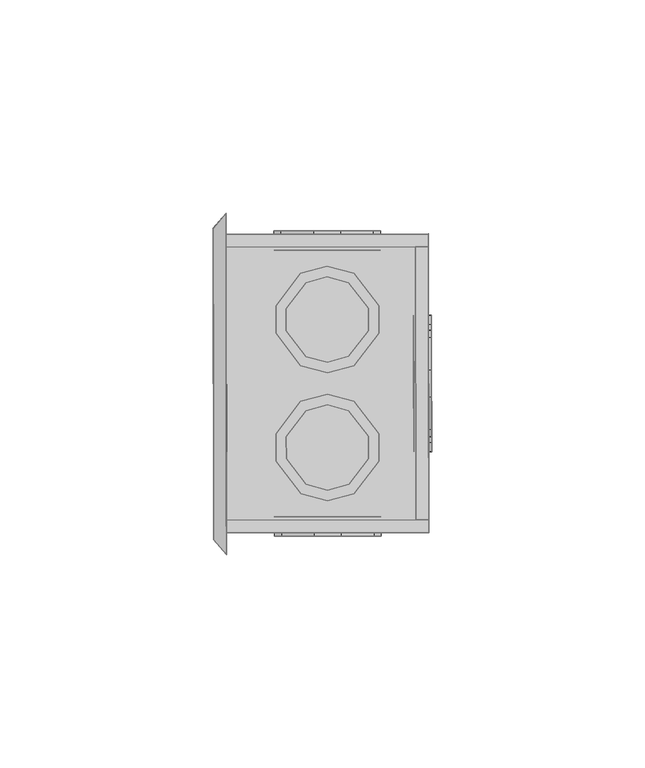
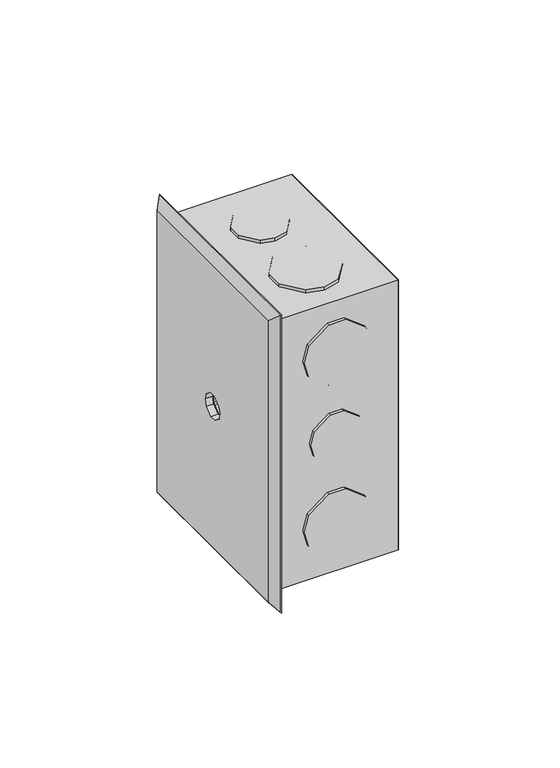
"""IFC4 building model written with IfcOpenShell, lengths in millimetres: proxy geometry,  211147 :  211147."""

import ifcopenshell
import ifcopenshell.guid

model = None  # the IFC model being written
_history = None  # IfcOwnerHistory: only IFC2X3 demands one
_inside = {}  # id of a spatial element -> (the spatial element, [elements in it])
_under = {}  # id of a project, library or spatial element -> (it, [spatial elements below it])
_declared = {}  # id of a project -> (the project, [libraries it declares])
_typed = {}  # id of a type object -> (the type object, [elements of that type])
_made_of = {}  # id of a material, layer set ... -> (it, [elements and type objects made of it])


def new_model(schema):
    """Start an empty IFC model of exactly this schema.

    Asked for "IFC4X3", IfcOpenShell would pick the latest addendum, in which some entities
    have other attributes; the version numbers below select the first issue.
    IFC2X3 requires an IfcOwnerHistory on every rooted entity: one is made here for all.
    """
    global model, _history
    if schema == "IFC4X3":
        model = ifcopenshell.file(schema_version=(4, 3, 0, 0))
    else:
        model = ifcopenshell.file(schema=schema)
    _inside.clear()
    _under.clear()
    _declared.clear()
    _typed.clear()
    _made_of.clear()
    _history = None
    if model.schema == "IFC2X3":
        org = make("IfcOrganization", Name="unknown")
        user = make(
            "IfcPersonAndOrganization",
            ThePerson=make("IfcPerson", FamilyName="unknown"),
            TheOrganization=org,
        )
        app = make(
            "IfcApplication",
            ApplicationDeveloper=org,
            Version="unknown",
            ApplicationFullName="unknown",
            ApplicationIdentifier="unknown",
        )
        _history = make(
            "IfcOwnerHistory",
            OwningUser=user,
            OwningApplication=app,
            ChangeAction="ADDED",
            CreationDate=0,
        )
    return model


def make(cls, **values):
    """One entity of the class cls with the attributes given. An attribute that is None is left unset."""
    return model.create_entity(
        cls, **{name: value for name, value in values.items() if value is not None}
    )


def rooted(cls, **values):
    """An entity with a GlobalId (a new one), such as an element, a storey or a relation."""
    return make(cls, GlobalId=ifcopenshell.guid.new(), OwnerHistory=_history, **values)


def si_unit(unit_type, name, prefix=None):
    """IfcSIUnit, for example si_unit("LENGTHUNIT", "METRE", prefix="MILLI")."""
    return make("IfcSIUnit", UnitType=unit_type, Prefix=prefix, Name=name)


def assignment(units):
    """IfcUnitAssignment: the units of a project."""
    return None if units is None else make("IfcUnitAssignment", Units=units)


def point(xyz):
    """IfcCartesianPoint."""
    return None if xyz is None else make("IfcCartesianPoint", Coordinates=xyz)


def direction(xyz):
    """IfcDirection."""
    return None if xyz is None else make("IfcDirection", DirectionRatios=xyz)


def frame(location, z_axis=None, x_axis=None):
    """IfcAxis2Placement3D, a coordinate frame: its origin and axes. An axis left out is left unset."""
    return make(
        "IfcAxis2Placement3D",
        Location=point(location),
        Axis=direction(z_axis),
        RefDirection=direction(x_axis),
    )


def origin():
    """The frame at (0, 0, 0) with its axes left unset."""
    return frame((0.0, 0.0, 0.0))


def place(relative_to, where):
    """IfcLocalPlacement: puts the frame where relative to a parent placement (None: the world)."""
    return make(
        "IfcLocalPlacement", PlacementRelTo=relative_to, RelativePlacement=where
    )


def context(
    kind, dimensions, precision=None, world=None, true_north=None, identifier=None
):
    """IfcGeometricRepresentationContext, for example the 3D "Model" context."""
    return make(
        "IfcGeometricRepresentationContext",
        ContextIdentifier=identifier,
        ContextType=kind,
        CoordinateSpaceDimension=dimensions,
        Precision=precision,
        WorldCoordinateSystem=world,
        TrueNorth=true_north,
    )


def project(units=None, contexts=None):
    """IfcProject with its units and contexts."""
    return rooted(
        "IfcProject",
        Name="project",
        RepresentationContexts=contexts,
        UnitsInContext=assignment(units),
    )


def spatial(cls, under=None, at=None, **own):
    """A site, building, storey or space (cls), placed at a placement, below another one or the project."""
    s = rooted(cls, ObjectPlacement=at, **own)
    if under is not None:
        _under.setdefault(under.id(), (under, []))[1].append(s)
    return s


def point_list(points):
    """IfcCartesianPointList2D or 3D."""
    cls = (
        "IfcCartesianPointList2D" if len(points[0]) == 2 else "IfcCartesianPointList3D"
    )
    return make(cls, CoordList=points)


def triangles(points, corners, closed=None, point_numbers=None):
    """IfcTriangulatedFaceSet: each triangle names its three corners, points numbered from 1."""
    return make(
        "IfcTriangulatedFaceSet",
        Coordinates=point_list(points),
        Closed=closed,
        CoordIndex=corners,
        PnIndex=point_numbers,
    )


def shape(context_of_items, identifier, shape_type, items):
    """IfcShapeRepresentation: the items that make up one representation, for example the "Body"."""
    return make(
        "IfcShapeRepresentation",
        ContextOfItems=context_of_items,
        RepresentationIdentifier=identifier,
        RepresentationType=shape_type,
        Items=items,
    )


def source(mapping_origin, context_of_items, identifier, shape_type, items):
    """IfcRepresentationMap: a shape defined once, which mapped items show again and again."""
    return make(
        "IfcRepresentationMap",
        MappingOrigin=mapping_origin,
        MappedRepresentation=shape(context_of_items, identifier, shape_type, items),
    )


def transform(
    local_origin,
    x_axis=None,
    y_axis=None,
    z_axis=None,
    scale=None,
    scale2=None,
    scale3=None,
    uniform=True,
):
    """IfcCartesianTransformationOperator3D, or its non-uniform kind. x_axis, y_axis, z_axis: its Axis1, 2, 3."""
    if uniform:
        return make(
            "IfcCartesianTransformationOperator3D",
            Axis1=direction(x_axis),
            Axis2=direction(y_axis),
            LocalOrigin=point(local_origin),
            Scale=scale,
            Axis3=direction(z_axis),
        )
    return make(
        "IfcCartesianTransformationOperator3DnonUniform",
        Axis1=direction(x_axis),
        Axis2=direction(y_axis),
        LocalOrigin=point(local_origin),
        Scale=scale,
        Axis3=direction(z_axis),
        Scale2=scale2,
        Scale3=scale3,
    )


def mapped(mapping_source, mapping_target):
    """IfcMappedItem: shows the shape of a source again, moved by a transform."""
    return make(
        "IfcMappedItem", MappingSource=mapping_source, MappingTarget=mapping_target
    )


def made_of(thing, what):
    """Note that an element or type object is made of a material, layer set ...; save() writes the relation."""
    if what is not None:
        _made_of.setdefault(what.id(), (what, []))[1].append(thing)
    return thing


def element(
    cls,
    number,
    at=None,
    inside=None,
    cuts=None,
    type_object=None,
    material=None,
    context=None,
    identifier="Body",
    shape_type=None,
    held_by="IfcProductDefinitionShape",
    body=None,
    shapes=None,
    **own,
):
    """One element of the class cls, such as IfcWall. Its Tag is "e" and its number.

    at: its placement. inside: the storey or other place that contains it. cuts: it is an
    opening in that element (IfcRelVoidsElement). A single representation is given by context,
    identifier, shape_type and body (its items); several are given by shapes. held_by: the class
    of the entity that holds the representations. save() writes the other relations.
    """
    e = rooted(cls, Tag="e%d" % number, ObjectPlacement=at, **own)
    if body is not None:
        shapes = [shape(context, identifier, shape_type, body)]
    if shapes is not None:
        e.Representation = make(held_by, Representations=shapes)
    if inside is not None:
        _inside.setdefault(inside.id(), (inside, []))[1].append(e)
    if cuts is not None:
        rooted(
            "IfcRelVoidsElement", RelatingBuildingElement=cuts, RelatedOpeningElement=e
        )
    if type_object is not None:
        _typed.setdefault(type_object.id(), (type_object, []))[1].append(e)
    return made_of(e, material)


def aggregate(whole, parts):
    """IfcRelAggregates: a whole, such as a stair, and the parts it consists of."""
    return rooted("IfcRelAggregates", RelatingObject=whole, RelatedObjects=parts)


def save(model, path):
    """Write the relations noted so far, then the file.

    IfcRelAggregates (storeys below a building ...), IfcRelContainedInSpatialStructure (elements
    in a storey), IfcRelDefinesByType, IfcRelAssociatesMaterial and IfcRelDeclares: one each for
    every whole, place, type object, material and project.
    """
    for whole, parts in _under.values():
        aggregate(whole, parts)
    for where, things in _inside.values():
        rooted(
            "IfcRelContainedInSpatialStructure",
            RelatedElements=things,
            RelatingStructure=where,
        )
    for kind, things in _typed.values():
        rooted("IfcRelDefinesByType", RelatedObjects=things, RelatingType=kind)
    for what, things in _made_of.values():
        rooted("IfcRelAssociatesMaterial", RelatedObjects=things, RelatingMaterial=what)
    for by, libraries in _declared.values():
        rooted("IfcRelDeclares", RelatingContext=by, RelatedDefinitions=libraries)
    model.write(path)


def generic_models_30c3853f(model_context):
    return source(origin(), model_context, "Body", "Tessellation", [
        triangles([(3404.9549561, 9338.6968369, 1749.1000683), (3399.9540985, 9340.029895, 1749.1000683), (3409.6290894, 9327.4539185, 1749.1000683), (3409.6229851, 9332.630928, 1749.1000683), (3404.9779198, 9321.3758011, 1749.1000683), (3399.979969, 9320.029953, 1749.1000683), (3394.954985, 9338.6840469, 1749.1000683), (3390.3041061, 9332.6059296, 1749.1000683), (3390.3110825, 9327.42892, 1749.1000683), (3394.9779488, 9321.3630112, 1749.1000683), (3406.1920898, 9349.2130554, 1749.1000683), (3406.1630219, 9370.8628967, 1749.1000683), (3393.6919807, 9349.1967773, 1749.1000683), (3411.9969681, 9363.2808014, 1749.1000683), (3412.0059792, 9356.8108475, 1749.1000683), (3399.9110779, 9372.5302368, 1749.1000683), (3393.6629128, 9370.8472, 1749.1000683), (3387.8490234, 9363.2488266, 1749.1000683), (3399.9439247, 9347.5300186, 1749.1000683), (3387.8580345, 9356.7788727, 1749.1000683), (3399.979969, 9320.029953, 1744.8000401), (3390.3041061, 9332.6059296, 1744.8000401), (3399.9540985, 9340.029895, 1744.8000401), (3390.3110825, 9327.42892, 1744.8000401), (3394.9779488, 9321.3630112, 1744.8000401), (3394.954985, 9338.6840469, 1744.8000401), (3404.9549561, 9338.6968369, 1744.8000401), (3409.6229851, 9332.630928, 1744.8000401), (3409.6290894, 9327.4539185, 1744.8000401), (3404.9779198, 9321.3758011, 1744.8000401), (3406.1630219, 9370.8628967, 1744.8000401), (3393.6919807, 9349.1967773, 1744.8000401), (3387.8490234, 9363.2488266, 1744.8000401), (3387.8580345, 9356.7788727, 1744.8000401), (3399.9439247, 9347.5300186, 1744.8000401), (3406.1920898, 9349.2130554, 1744.8000401), (3393.6629128, 9370.8472, 1744.8000401), (3411.9969681, 9363.2808014, 1744.8000401), (3412.0059792, 9356.8108475, 1744.8000401), (3399.9110779, 9372.5302368, 1744.8000401), (3406.2031357, 9340.8629837, 1855.1999874), (3399.950029, 9342.5297424, 1855.1999874), (3412.0370819, 9333.2808884, 1855.1999874), (3406.231041, 9319.2131424, 1855.1999874), (3412.0449303, 9326.8109344, 1855.1999874), (3393.7030266, 9340.847287, 1855.1999874), (3387.8879745, 9333.2489136, 1855.1999874), (3393.7309319, 9319.1968643, 1855.1999874), (3399.9828758, 9317.5301056, 1855.1999874), (3387.8969856, 9326.7789597, 1855.1999874), (3409.5901382, 9357.4538315, 1855.1999874), (3404.9160049, 9368.6967499, 1855.1999874), (3394.9160339, 9368.68396, 1855.1999874), (3409.5828712, 9362.6308411, 1855.1999874), (3404.9389687, 9351.3757141, 1855.1999874), (3399.9410179, 9350.029866, 1855.1999874), (3399.9139847, 9370.029808, 1855.1999874), (3390.2648643, 9362.6058426, 1855.1999874), (3390.2721313, 9357.428833, 1855.1999874), (3394.9389977, 9351.3629242, 1855.1999874), (3387.8879745, 9333.2489136, 1850.9999531), (3393.7030266, 9340.847287, 1850.9999531), (3393.7309319, 9319.1968643, 1850.9999531), (3387.8969856, 9326.7789597, 1850.9999531), (3399.9828758, 9317.5301056, 1850.9999531), (3406.231041, 9319.2131424, 1850.9999531), (3399.950029, 9342.5297424, 1850.9999531), (3406.2031357, 9340.8629837, 1850.9999531), (3412.0370819, 9333.2808884, 1850.9999531), (3412.0449303, 9326.8109344, 1850.9999531), (3409.5901382, 9357.4538315, 1850.9999531), (3390.2721313, 9357.428833, 1850.9999531), (3390.2648643, 9362.6058426, 1850.9999531), (3394.9389977, 9351.3629242, 1850.9999531), (3399.9410179, 9350.029866, 1850.9999531), (3394.9160339, 9368.68396, 1850.9999531), (3404.9160049, 9368.6967499, 1850.9999531), (3404.9389687, 9351.3757141, 1850.9999531), (3409.5828712, 9362.6308411, 1850.9999531), (3399.9139847, 9370.029808, 1850.9999531), (3403.135881, 9380.8337997, 1846.0739456), (3410.7261154, 9380.8442642, 1840.2500278), (3396.6650551, 9380.8262421, 1846.0739456), (3403.135881, 9380.8337997, 1821.926001), (3389.0751114, 9380.8157776, 1840.2500278), (3387.3999229, 9380.8140335, 1833.9999733), (3412.4001411, 9380.8460083, 1833.9999733), (3410.7261154, 9380.8442642, 1827.7500641), (3389.0751114, 9380.8157776, 1827.7500641), (3396.6650551, 9380.8262421, 1821.926001), (3389.900061, 9380.8169403, 1800.0000137), (3402.4879555, 9380.8332184, 1809.6590172), (3409.9000031, 9380.8431015, 1800.0000137), (3397.3121086, 9380.8268234, 1809.6590172), (3391.2400955, 9380.8192657, 1804.9999992), (3408.5611313, 9380.8407761, 1804.9999992), (3408.5611313, 9380.8407761, 1795.0000282), (3402.4879555, 9380.8332184, 1790.3410103), (3391.2400955, 9380.8192657, 1795.0000282), (3397.3121086, 9380.8268234, 1790.3410103), (3389.0751114, 9380.8157776, 1772.2499634), (3403.135881, 9380.8337997, 1778.0740265), (3412.4001411, 9380.8460083, 1766.0000542), (3396.6650551, 9380.8262421, 1778.0740265), (3387.3999229, 9380.8140335, 1766.0000542), (3389.0751114, 9380.8157776, 1759.7499996), (3410.7261154, 9380.8442642, 1772.2499634), (3410.7261154, 9380.8442642, 1759.7499996), (3396.6650551, 9380.8262421, 1753.9259365), (3403.135881, 9380.8337997, 1753.9259365), (3410.731929, 9376.2439636, 1827.7500641), (3412.4059547, 9376.2462891, 1833.9999733), (3403.1419853, 9376.2340805, 1821.926001), (3389.080925, 9376.2160583, 1827.7500641), (3396.6708687, 9376.2259415, 1821.926001), (3387.4060272, 9376.2137329, 1833.9999733), (3396.6708687, 9376.2259415, 1846.0739456), (3410.731929, 9376.2439636, 1840.2500278), (3403.1419853, 9376.2340805, 1846.0739456), (3389.080925, 9376.2160583, 1840.2500278), (3408.5669449, 9376.2410568, 1795.0000282), (3409.9061073, 9376.2428009, 1800.0000137), (3391.2459091, 9376.2189651, 1795.0000282), (3402.4940598, 9376.2329178, 1790.3410103), (3397.3179222, 9376.2271042, 1790.3410103), (3389.9058746, 9376.2172211, 1800.0000137), (3402.4940598, 9376.2329178, 1809.6590172), (3397.3179222, 9376.2271042, 1809.6590172), (3391.2459091, 9376.2189651, 1804.9999992), (3408.5669449, 9376.2410568, 1804.9999992), (3410.731929, 9376.2439636, 1759.7499996), (3412.4059547, 9376.2462891, 1766.0000542), (3389.080925, 9376.2160583, 1759.7499996), (3396.6708687, 9376.2259415, 1753.9259365), (3403.1419853, 9376.2340805, 1753.9259365), (3410.731929, 9376.2439636, 1772.2499634), (3389.080925, 9376.2160583, 1772.2499634), (3403.1419853, 9376.2340805, 1778.0740265), (3387.4060272, 9376.2137329, 1766.0000542), (3396.6708687, 9376.2259415, 1778.0740265), (3403.2288986, 9309.2341003, 1821.926001), (3410.819133, 9309.2439835, 1827.7500641), (3396.7589447, 9309.2259613, 1821.926001), (3403.2288986, 9309.2341003, 1846.0739456), (3389.169001, 9309.2160782, 1827.7500641), (3387.4941032, 9309.2137527, 1833.9999733), (3412.4940308, 9309.2457275, 1833.9999733), (3410.819133, 9309.2439835, 1840.2500278), (3389.169001, 9309.2160782, 1840.2500278), (3396.7589447, 9309.2259613, 1846.0739456), (3389.9939507, 9309.2172409, 1800.0000137), (3402.5821358, 9309.2329376, 1790.3410103), (3402.5821358, 9309.2329376, 1809.6590172), (3391.3339851, 9309.218985, 1795.0000282), (3397.4059982, 9309.227124, 1790.3410103), (3408.6538582, 9309.2410767, 1795.0000282), (3409.9938927, 9309.2428207, 1800.0000137), (3408.6538582, 9309.2410767, 1804.9999992), (3397.4059982, 9309.227124, 1809.6590172), (3391.3339851, 9309.218985, 1804.9999992), (3403.2288986, 9309.2341003, 1753.9259365), (3410.819133, 9309.2439835, 1759.7499996), (3396.7589447, 9309.2259613, 1753.9259365), (3387.4941032, 9309.2137527, 1766.0000542), (3389.169001, 9309.2160782, 1759.7499996), (3389.169001, 9309.2160782, 1772.2499634), (3410.819133, 9309.2439835, 1772.2499634), (3403.2288986, 9309.2341003, 1778.0740265), (3396.7589447, 9309.2259613, 1778.0740265), (3412.4940308, 9309.2457275, 1766.0000542), (3410.8130287, 9313.8442841, 1840.2500278), (3412.4879265, 9313.8460281, 1833.9999733), (3403.223085, 9313.8338196, 1846.0739456), (3389.1628967, 9313.8157974, 1840.2500278), (3396.7531311, 9313.8262619, 1846.0739456), (3387.487999, 9313.8140533, 1833.9999733), (3396.7531311, 9313.8262619, 1821.926001), (3410.8130287, 9313.8442841, 1827.7500641), (3403.223085, 9313.8338196, 1821.926001), (3389.1628967, 9313.8157974, 1827.7500641), (3402.5760315, 9313.8332382, 1809.6590172), (3408.6480446, 9313.8407959, 1804.9999992), (3402.5760315, 9313.8332382, 1790.3410103), (3397.399894, 9313.8268433, 1809.6590172), (3389.9881371, 9313.8169601, 1800.0000137), (3391.3278809, 9313.8192856, 1804.9999992), (3409.9880791, 9313.8431213, 1800.0000137), (3391.3278809, 9313.8192856, 1795.0000282), (3397.399894, 9313.8268433, 1790.3410103), (3408.6480446, 9313.8407959, 1795.0000282), (3403.223085, 9313.8338196, 1778.0740265), (3410.8130287, 9313.8442841, 1772.2499634), (3396.7531311, 9313.8262619, 1753.9259365), (3389.1628967, 9313.8157974, 1772.2499634), (3396.7531311, 9313.8262619, 1778.0740265), (3410.8130287, 9313.8442841, 1759.7499996), (3412.4879265, 9313.8460281, 1766.0000542), (3403.223085, 9313.8338196, 1753.9259365), (3387.487999, 9313.8140533, 1766.0000542), (3389.1628967, 9313.8157974, 1759.7499996), (3424.3831306, 9355.8870667, 1827.7500641), (3424.3810959, 9357.5619644, 1833.9999733), (3424.3930138, 9348.2968323, 1821.926001), (3424.4110359, 9334.2372253, 1827.7500641), (3424.4008621, 9341.8268784, 1821.926001), (3424.3831306, 9355.8870667, 1840.2500278), (3424.3930138, 9348.2968323, 1846.0739456), (3424.4008621, 9341.8268784, 1846.0739456), (3424.4130707, 9332.5617462, 1833.9999733), (3424.4110359, 9334.2372253, 1840.2500278), (3424.3790611, 9358.918277, 1792.000066), (3424.3758636, 9361.0617508, 1800.0000137), (3424.3921417, 9349.2031723, 1784.5449978), (3424.4151054, 9331.206015, 1792.000066), (3424.4020248, 9340.9211197, 1784.5449978), (3424.3790611, 9358.918277, 1807.9999615), (3424.3921417, 9349.2031723, 1815.4550297), (3424.4020248, 9340.9211197, 1815.4550297), (3424.4180122, 9329.0619598, 1800.0000137), (3424.4151054, 9331.206015, 1807.9999615), (3424.3831306, 9355.8870667, 1759.7499996), (3424.3810959, 9357.5619644, 1766.0000542), (3424.4008621, 9341.8268784, 1753.9259365), (3424.3930138, 9348.2968323, 1753.9259365), (3424.4110359, 9334.2372253, 1759.7499996), (3424.4130707, 9332.5617462, 1766.0000542), (3424.4008621, 9341.8268784, 1778.0740265), (3424.3930138, 9348.2968323, 1778.0740265), (3424.4110359, 9334.2372253, 1772.2499634), (3424.3831306, 9355.8870667, 1772.2499634), (3420.1929794, 9348.2921814, 1846.0739456), (3420.1830963, 9355.8818344, 1840.2500278), (3420.2011185, 9341.8210648, 1846.0739456), (3420.2110016, 9334.2308304, 1827.7500641), (3420.2110016, 9334.2308304, 1840.2500278), (3420.2130363, 9332.5559326, 1833.9999733), (3420.1810616, 9357.5561508, 1833.9999733), (3420.1830963, 9355.8818344, 1827.7500641), (3420.1929794, 9348.2921814, 1821.926001), (3420.2011185, 9341.8210648, 1821.926001), (3420.1921074, 9349.1979401, 1815.4550297), (3420.1790268, 9358.9130447, 1807.9999615), (3420.2179779, 9329.0561462, 1800.0000137), (3420.2019905, 9340.9147247, 1815.4550297), (3420.2150711, 9331.2002014, 1807.9999615), (3420.17612, 9361.0559372, 1800.0000137), (3420.1790268, 9358.9130447, 1792.000066), (3420.1921074, 9349.1979401, 1784.5449978), (3420.2150711, 9331.2002014, 1792.000066), (3420.2019905, 9340.9147247, 1784.5449978), (3420.1810616, 9357.5561508, 1766.0000542), (3420.2011185, 9341.8210648, 1778.0740265), (3420.1929794, 9348.2921814, 1778.0740265), (3420.2130363, 9332.5559326, 1766.0000542), (3420.2110016, 9334.2308304, 1772.2499634), (3420.2011185, 9341.8210648, 1753.9259365), (3420.1830963, 9355.8818344, 1772.2499634), (3420.1830963, 9355.8818344, 1759.7499996), (3420.1929794, 9348.2921814, 1753.9259365), (3420.2110016, 9334.2308304, 1759.7499996), (3424.3848747, 9354.0610153, 1788.2729679), (3420.1851311, 9354.0552017, 1788.2729679), (3420.2089668, 9336.0580444, 1788.2729679), (3424.4171402, 9330.1339874, 1795.9999672), (3420.2171059, 9330.1281738, 1795.9999672), (3424.4090012, 9336.0632767, 1788.2729679), (3420.197049, 9345.055751, 1784.5449978), (3420.1778641, 9359.9397263, 1795.8319542), (3424.3778984, 9359.9897232, 1795.9999672), (3424.3970833, 9345.062146, 1784.5449978), (3424.4090012, 9336.0632767, 1811.7270596), (3420.2089668, 9336.0580444, 1811.7270596), (3420.1851311, 9354.0552017, 1811.7270596), (3424.3778984, 9359.9897232, 1804.0000603), (3420.1778641, 9359.9850723, 1804.0000603), (3424.3848747, 9354.0610153, 1811.7270596), (3420.197049, 9345.055751, 1815.4550297), (3420.2159431, 9330.1729385, 1804.1679279), (3424.4171402, 9330.1339874, 1804.0000603), (3424.3970833, 9345.062146, 1815.4550297), (3423.6549774, 9377.0607742, 1748.7499443), (3423.6549774, 9377.0607742, 1851.2499378), (3423.7389839, 9313.0611923, 1851.2499378), (3423.7389839, 9313.0611923, 1748.7499443), (3420.7388763, 9313.0571228, 1748.7499443), (3420.7388763, 9313.0571228, 1851.2499378), (3420.6548698, 9377.0572861, 1851.2499378), (3420.6548698, 9377.0572861, 1748.7499443), (3423.6509079, 9380.0611725, 1854.2500454), (3423.6509079, 9380.0611725, 1745.7499821), (3423.7430534, 9310.0607941, 1854.2500454), (3423.7430534, 9310.0607941, 1745.7499821), (3376.2430458, 9309.9991699, 1854.2500454), (3376.2389763, 9312.9989868, 1851.2499378), (3376.2389763, 9312.9989868, 1748.7499443), (3376.1549698, 9376.9991501, 1851.2499378), (3376.2430458, 9309.9991699, 1745.7499821), (3376.1549698, 9376.9991501, 1748.7499443), (3376.1509003, 9379.998967, 1854.2500454), (3376.1509003, 9379.998967, 1745.7499821), (3373.244973, 9308.3690369, 1856.5000534), (3373.1990456, 9343.5750275, 1804.8299515), (3373.2031151, 9340.5391663, 1802.5000065), (3373.1961388, 9346.1632416, 1804.8299515), (3373.2039871, 9339.8688583, 1800.0000137), (3373.244973, 9308.3690369, 1743.4999741), (3373.2031151, 9340.5391663, 1797.500021), (3373.1990456, 9343.5750275, 1795.1699306), (3373.1961388, 9346.1632416, 1795.1699306), (3373.1499207, 9381.3692322, 1856.5000534), (3373.1920692, 9349.1991028, 1802.5000065), (3373.1909065, 9349.8688293, 1800.0000137), (3373.1920692, 9349.1991028, 1797.500021), (3373.1499207, 9381.3692322, 1743.4999741), (3376.2488594, 9304.908783, 1740.0359413), (3376.1988625, 9343.579097, 1795.1699306), (3376.202932, 9340.5432358, 1797.500021), (3376.1959557, 9346.1667297, 1795.1699306), (3376.2040947, 9339.8729279, 1800.0000137), (3376.2488594, 9304.908783, 1860.0360294), (3376.202932, 9340.5432358, 1802.5000065), (3376.1988625, 9343.579097, 1804.8299515), (3376.1959557, 9346.1667297, 1804.8299515), (3376.1450867, 9384.9091324, 1740.0359413), (3376.1918861, 9349.2031723, 1797.500021), (3376.1910141, 9349.8728989, 1800.0000137), (3376.1918861, 9349.2031723, 1802.5000065), (3376.1450867, 9384.9091324, 1860.0360294)], [[3, 1, 2], [1, 3, 4], [6, 5, 3], [3, 2, 7], [7, 8, 9], [6, 9, 10], [7, 9, 6], [7, 6, 3], [11, 12, 13], [14, 11, 15], [11, 14, 12], [12, 16, 17], [13, 12, 18], [13, 19, 11], [13, 18, 20], [18, 12, 17], [21, 22, 23], [24, 21, 25], [21, 24, 22], [22, 26, 23], [23, 27, 28], [29, 30, 21], [29, 23, 28], [23, 29, 21], [31, 32, 33], [33, 32, 34], [36, 35, 32], [33, 37, 31], [31, 36, 32], [36, 38, 39], [31, 38, 36], [31, 37, 40], [5, 21, 30], [3, 30, 29], [21, 5, 6], [5, 30, 3], [29, 4, 3], [1, 28, 27], [2, 27, 23], [28, 1, 4], [1, 27, 2], [28, 4, 29], [7, 23, 26], [8, 26, 22], [23, 7, 2], [7, 26, 8], [22, 9, 8], [10, 24, 25], [6, 25, 21], [24, 10, 9], [10, 25, 6], [24, 9, 22], [19, 35, 36], [11, 36, 39], [11, 19, 36], [15, 11, 39], [39, 38, 15], [14, 38, 31], [12, 31, 40], [12, 14, 31], [16, 12, 40], [38, 14, 15], [37, 33, 17], [40, 37, 16], [37, 17, 16], [17, 33, 18], [33, 34, 18], [32, 35, 13], [34, 32, 20], [32, 13, 20], [13, 35, 19], [34, 20, 18], [43, 41, 42], [43, 44, 45], [44, 43, 42], [42, 46, 44], [46, 47, 48], [46, 48, 49], [48, 47, 50], [46, 49, 44], [51, 52, 53], [52, 51, 54], [56, 55, 51], [53, 52, 57], [51, 58, 59], [60, 56, 51], [51, 59, 60], [58, 51, 53], [63, 61, 62], [61, 63, 64], [66, 65, 63], [66, 63, 62], [67, 68, 69], [66, 69, 70], [67, 69, 66], [67, 66, 62], [71, 72, 73], [74, 71, 75], [72, 71, 74], [73, 76, 77], [77, 71, 73], [71, 78, 75], [71, 77, 79], [76, 80, 77], [44, 65, 66], [45, 66, 70], [65, 44, 49], [44, 66, 45], [70, 43, 45], [41, 69, 68], [42, 68, 67], [69, 41, 43], [41, 68, 42], [69, 43, 70], [46, 67, 62], [47, 62, 61], [67, 46, 42], [46, 62, 47], [61, 50, 47], [48, 64, 63], [49, 63, 65], [64, 48, 50], [48, 63, 49], [64, 50, 61], [78, 71, 51], [75, 78, 55], [75, 55, 56], [55, 78, 51], [71, 54, 51], [77, 80, 57], [79, 77, 52], [79, 52, 54], [52, 77, 57], [79, 54, 71], [53, 80, 76], [58, 76, 73], [53, 57, 80], [58, 53, 76], [73, 59, 58], [60, 72, 74], [56, 74, 75], [60, 59, 72], [56, 60, 74], [72, 59, 73], [83, 81, 82], [83, 84, 85], [84, 86, 85], [84, 83, 82], [87, 88, 84], [89, 84, 90], [84, 89, 86], [84, 82, 87], [91, 92, 93], [94, 91, 95], [91, 94, 92], [92, 96, 93], [93, 97, 98], [99, 98, 100], [98, 99, 91], [93, 98, 91], [101, 102, 103], [102, 101, 104], [106, 105, 101], [103, 102, 107], [103, 108, 106], [108, 109, 106], [109, 108, 110], [103, 106, 101], [113, 111, 112], [113, 114, 115], [116, 114, 113], [113, 112, 117], [118, 119, 117], [120, 116, 113], [113, 117, 120], [112, 118, 117], [123, 121, 122], [124, 123, 125], [123, 124, 121], [122, 126, 123], [122, 127, 126], [126, 128, 129], [127, 128, 126], [127, 122, 130], [133, 131, 132], [131, 134, 135], [133, 134, 131], [133, 132, 136], [138, 137, 133], [137, 139, 133], [137, 138, 140], [136, 138, 133], [118, 87, 82], [119, 82, 81], [87, 118, 112], [119, 118, 82], [81, 117, 119], [120, 83, 85], [116, 85, 86], [83, 120, 117], [120, 85, 116], [83, 117, 81], [114, 86, 89], [115, 89, 90], [86, 114, 116], [114, 89, 115], [90, 113, 115], [111, 84, 88], [112, 88, 87], [84, 111, 113], [112, 111, 88], [90, 84, 113], [96, 92, 130], [93, 96, 122], [96, 130, 122], [130, 92, 127], [127, 92, 94], [95, 91, 129], [94, 95, 128], [95, 129, 128], [129, 91, 126], [94, 128, 127], [126, 91, 99], [123, 99, 100], [99, 123, 126], [100, 125, 123], [100, 98, 125], [124, 98, 97], [121, 97, 93], [97, 121, 124], [93, 122, 121], [98, 124, 125], [107, 102, 136], [132, 103, 107], [107, 136, 132], [136, 102, 138], [138, 102, 104], [137, 101, 105], [104, 101, 140], [101, 137, 140], [137, 105, 139], [104, 140, 138], [139, 105, 106], [133, 106, 109], [133, 139, 106], [109, 134, 133], [109, 110, 134], [135, 110, 108], [131, 108, 103], [108, 131, 135], [132, 131, 103], [110, 135, 134], [143, 141, 142], [143, 144, 145], [144, 146, 145], [144, 143, 142], [147, 148, 144], [149, 144, 150], [144, 149, 146], [144, 142, 147], [151, 152, 153], [152, 154, 155], [151, 154, 152], [152, 156, 157], [152, 158, 153], [151, 159, 160], [151, 153, 159], [152, 157, 158], [163, 161, 162], [163, 164, 165], [166, 164, 163], [163, 162, 167], [168, 163, 167], [166, 168, 169], [168, 166, 163], [167, 162, 170], [173, 171, 172], [173, 174, 175], [176, 174, 173], [173, 172, 177], [178, 179, 177], [180, 176, 173], [173, 177, 180], [172, 178, 177], [181, 182, 183], [184, 185, 186], [181, 183, 184], [183, 182, 187], [183, 185, 184], [183, 188, 185], [188, 183, 189], [183, 187, 190], [191, 192, 193], [191, 194, 195], [193, 194, 191], [196, 192, 197], [196, 198, 193], [199, 193, 200], [193, 199, 194], [193, 192, 196], [174, 146, 149], [175, 149, 150], [146, 174, 176], [175, 174, 149], [150, 173, 175], [171, 144, 148], [172, 148, 147], [144, 171, 173], [171, 148, 172], [144, 173, 150], [178, 147, 142], [179, 142, 141], [147, 178, 172], [178, 142, 179], [141, 177, 179], [180, 143, 145], [176, 145, 146], [143, 180, 177], [176, 180, 145], [141, 143, 177], [185, 151, 160], [186, 160, 159], [186, 185, 160], [184, 186, 159], [184, 159, 153], [181, 153, 158], [182, 158, 157], [182, 181, 158], [187, 182, 157], [153, 181, 184], [190, 156, 152], [187, 157, 156], [156, 190, 187], [190, 152, 183], [152, 155, 183], [188, 154, 151], [189, 155, 154], [154, 188, 189], [188, 151, 185], [155, 189, 183], [199, 164, 166], [194, 166, 169], [166, 194, 199], [195, 194, 169], [195, 169, 168], [191, 168, 167], [192, 167, 170], [192, 191, 167], [170, 197, 192], [168, 191, 195], [196, 162, 161], [170, 162, 197], [162, 196, 197], [196, 161, 198], [161, 163, 198], [165, 164, 200], [193, 163, 165], [165, 200, 193], [200, 164, 199], [163, 193, 198], [203, 201, 202], [203, 204, 205], [204, 203, 202], [202, 206, 204], [206, 207, 208], [209, 208, 210], [206, 208, 209], [206, 209, 204], [213, 211, 212], [213, 214, 215], [214, 213, 212], [212, 216, 214], [216, 217, 218], [219, 218, 220], [218, 219, 214], [218, 214, 216], [223, 221, 222], [221, 223, 224], [226, 225, 223], [223, 222, 227], [227, 222, 228], [226, 227, 229], [227, 226, 223], [228, 222, 230], [233, 231, 232], [233, 234, 235], [234, 236, 235], [237, 233, 232], [237, 238, 234], [234, 239, 240], [238, 239, 234], [237, 234, 233], [243, 241, 242], [244, 243, 245], [243, 244, 241], [242, 246, 243], [246, 247, 248], [249, 248, 250], [248, 249, 243], [248, 243, 246], [251, 252, 253], [252, 254, 255], [256, 254, 252], [253, 257, 251], [251, 258, 259], [256, 260, 254], [256, 251, 259], [256, 252, 251], [204, 236, 234], [205, 234, 240], [236, 204, 209], [205, 204, 234], [240, 203, 205], [201, 239, 238], [202, 238, 237], [239, 201, 203], [201, 238, 202], [239, 203, 240], [206, 237, 232], [207, 232, 231], [237, 206, 202], [207, 206, 232], [231, 208, 207], [210, 233, 235], [209, 235, 236], [233, 210, 208], [210, 235, 209], [233, 208, 231], [261, 248, 262], [262, 247, 211], [215, 263, 250], [243, 264, 219], [265, 214, 264], [266, 249, 263], [265, 249, 214], [264, 243, 265], [213, 267, 248], [249, 266, 214], [215, 266, 263], [211, 268, 269], [248, 261, 213], [262, 211, 261], [246, 269, 268], [268, 211, 247], [270, 215, 250], [246, 212, 269], [270, 250, 267], [267, 213, 270], [271, 244, 272], [272, 245, 220], [217, 273, 241], [246, 274, 212], [275, 216, 274], [276, 242, 273], [275, 242, 216], [274, 246, 275], [218, 277, 244], [242, 276, 216], [217, 276, 273], [220, 278, 279], [244, 271, 218], [272, 220, 271], [243, 279, 278], [278, 220, 245], [280, 217, 241], [243, 219, 279], [280, 241, 277], [277, 218, 280], [260, 256, 223], [254, 260, 225], [254, 225, 226], [223, 225, 260], [256, 224, 223], [258, 251, 222], [259, 258, 221], [259, 221, 224], [221, 258, 222], [259, 224, 256], [230, 251, 257], [228, 257, 253], [230, 222, 251], [228, 230, 257], [253, 227, 228], [229, 252, 255], [226, 255, 254], [229, 227, 252], [226, 229, 255], [252, 227, 253], [281, 282, 283], [283, 284, 281], [285, 286, 287], [287, 288, 285], [283, 282, 287], [287, 286, 283], [284, 283, 286], [286, 285, 284], [281, 284, 285], [285, 288, 281], [282, 281, 288], [288, 287, 282], [289, 282, 281], [283, 282, 289], [290, 281, 284], [289, 281, 290], [284, 283, 291], [291, 283, 289], [290, 284, 292], [292, 284, 291], [293, 294, 295], [296, 294, 293], [297, 295, 298], [293, 295, 297], [298, 296, 299], [299, 296, 293], [297, 298, 300], [300, 298, 299], [291, 289, 299], [299, 293, 291], [292, 291, 293], [293, 297, 292], [290, 292, 297], [297, 300, 290], [289, 290, 300], [300, 299, 289], [284, 281, 298], [298, 295, 284], [283, 284, 295], [295, 294, 283], [296, 282, 283], [283, 294, 296], [281, 282, 296], [296, 298, 281], [301, 302, 303], [304, 302, 301], [301, 303, 305], [306, 305, 307], [301, 305, 306], [307, 308, 306], [306, 308, 309], [311, 304, 310], [310, 304, 301], [312, 311, 310], [314, 309, 313], [312, 314, 313], [314, 312, 310], [309, 314, 306], [315, 316, 317], [318, 316, 315], [315, 317, 319], [320, 319, 321], [315, 319, 320], [321, 322, 320], [320, 322, 323], [325, 318, 324], [324, 318, 315], [326, 325, 324], [328, 323, 327], [326, 328, 327], [328, 326, 324], [323, 328, 320], [310, 301, 320], [328, 310, 320], [324, 310, 328], [324, 314, 310], [315, 314, 324], [315, 306, 314], [301, 306, 315], [320, 301, 315], [325, 326, 313], [309, 318, 325], [312, 313, 326], [309, 325, 313], [318, 309, 308], [307, 317, 316], [319, 317, 305], [316, 308, 307], [305, 317, 307], [318, 308, 316], [303, 321, 319], [322, 321, 302], [319, 305, 303], [302, 321, 303], [302, 304, 322], [327, 323, 311], [312, 326, 327], [304, 311, 323], [312, 327, 311], [322, 304, 323]], closed=False),
    ])


if __name__ == "__main__":
    model = new_model("IFC4")
    model_context = context("Model", 3, world=origin())
    ifc_project = project(units=[si_unit("LENGTHUNIT", "METRE", prefix="MILLI")], contexts=[model_context])
    site = spatial("IfcSite", under=ifc_project)
    building = spatial("IfcBuilding", under=site)
    placement = place(None, origin())
    generic_models_shape = generic_models_30c3853f(model_context)
    element("IfcBuildingElementProxy", 1, Name=" 211147 :  211147", ObjectType=" 211147 :  211147", at=placement, inside=building, context=model_context, shape_type="MappedRepresentation", body=[
        mapped(generic_models_shape, transform((0.0, 0.0, 0.0), x_axis=(1.0, 0.0, 0.0), y_axis=(0.0, 1.0, 0.0), z_axis=(0.0, 0.0, 1.0))),
    ])
    save(model, "model.ifc")
